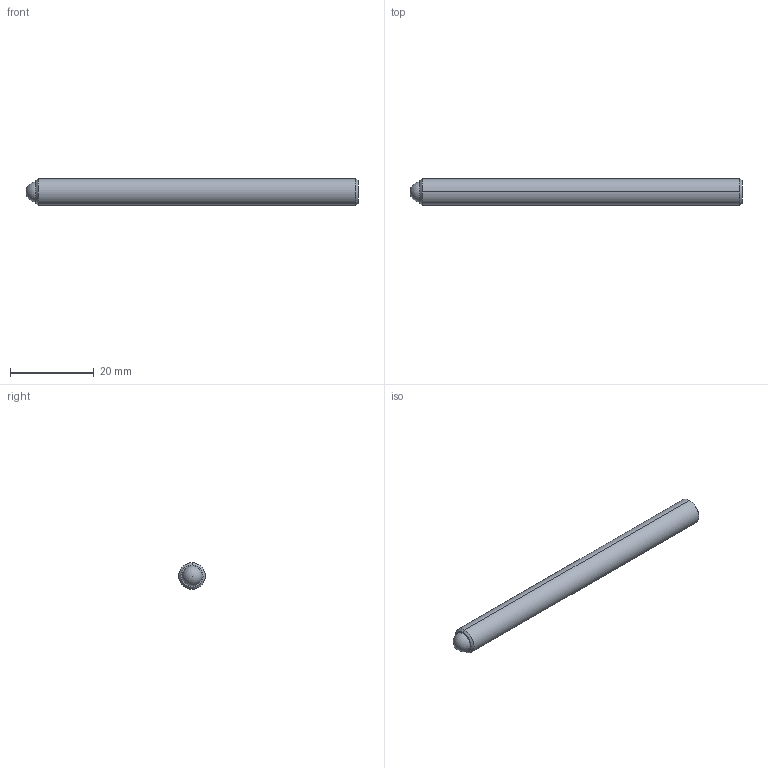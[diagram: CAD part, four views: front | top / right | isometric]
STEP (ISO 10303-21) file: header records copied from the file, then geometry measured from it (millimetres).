
FILE_DESCRIPTION (( 'STEP AP214' ), '1' );
FILE_NAME ('TS250-100-3125-AA.STEP', '2013-02-13T14:15:40', ( 'workpc' ), ( 'Microsoft' ), 'SwSTEP 2.0', 'SolidWorks 2013', '' );
FILE_SCHEMA (( 'AUTOMOTIVE_DESIGN' ));
Length unit declared in the file: inch
Products named in the file (1): TS250-100-3125-AA
Bounding box: 79.38 x 6.35 x 6.35 mm (x, y, z)
Volume: 2446.9 mm3; surface area: 1703.4 mm2
Topology: 2 solids, 2 shells, 20 faces, 45 edges, 29 vertices
Faces by surface type: plane 10, cylinder 4, cone 4, sphere 2
Entity records: 599 total; most frequent: DIRECTION 96, CARTESIAN_POINT 87, ORIENTED_EDGE 80, EDGE_CURVE 40, AXIS2_PLACEMENT_3D 35, LINE 26, VECTOR 26, VERTEX_POINT 26
